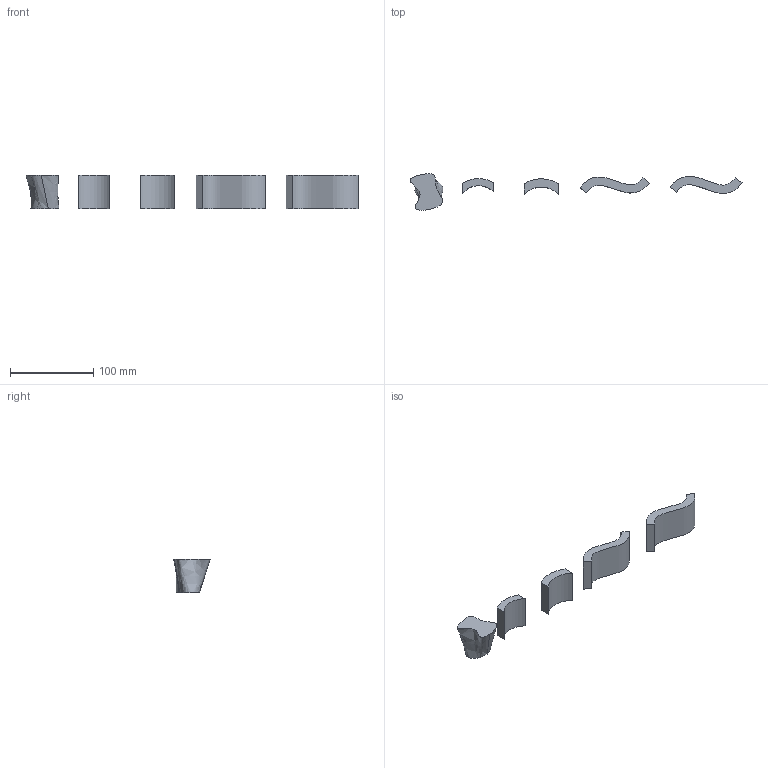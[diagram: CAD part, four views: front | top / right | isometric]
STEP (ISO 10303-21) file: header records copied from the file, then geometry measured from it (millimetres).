
FILE_DESCRIPTION (( 'STEP AP203' ), '1' );
FILE_NAME ('28.2.STEP', '2025-11-23T23:28:16', ( '' ), ( '' ), 'SwSTEP 2.0', 'SolidWorks 2025', '' );
FILE_SCHEMA (( 'CONFIG_CONTROL_DESIGN' ));
Length unit declared in the file: millimetre
Products named in the file (1): 28.2
Bounding box: 399.19 x 44.01 x 40 mm (x, y, z)
Volume: 134828 mm3; surface area: 35446.5 mm2
Topology: 5 solids, 5 shells, 28 faces, 54 edges, 36 vertices
Faces by surface type: plane 18, bspline 6, cylinder 4
Entity records: 1586 total; most frequent: CARTESIAN_POINT 978, ORIENTED_EDGE 108, DIRECTION 94, EDGE_CURVE 54, VERTEX_POINT 36, VECTOR 32, LINE 32, AXIS2_PLACEMENT_3D 31
